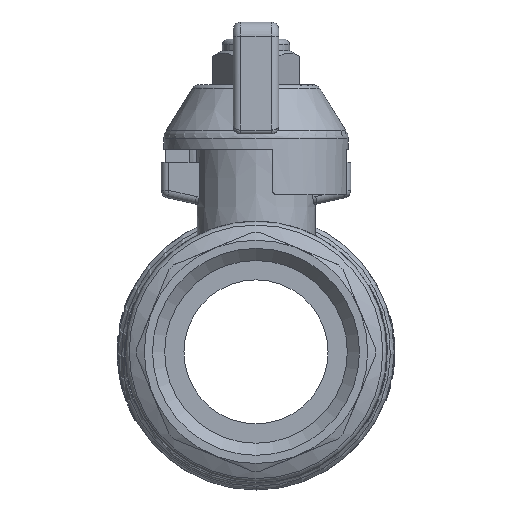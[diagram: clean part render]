
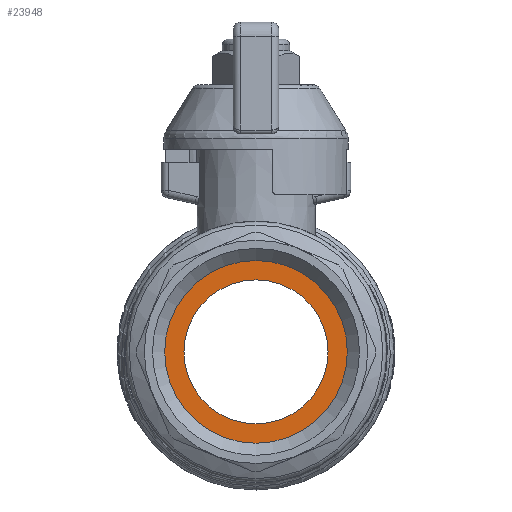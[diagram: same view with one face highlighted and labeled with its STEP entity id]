
A CAD part, left-side view. The second image highlights one B-rep face of the part: STEP entity #23948.
In plain terms, the highlighted planar face has unit normal (-1, 0, 0).
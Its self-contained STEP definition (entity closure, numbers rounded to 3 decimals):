
#23892=CARTESIAN_POINT('',(-0.,0.,-12.05));
#23893=VERTEX_POINT('',#23892);
#23902=CARTESIAN_POINT('',(-0.,0.,-0.));
#23903=DIRECTION('',(1.,0.,-0.));
#23904=DIRECTION('',(-0.,0.,-1.));
#23905=AXIS2_PLACEMENT_3D('',#23902,#23903,#23904);
#23906=CIRCLE('',#23905,12.05);
#23907=EDGE_CURVE('',#23893,#23893,#23906,.T.);
#23929=CARTESIAN_POINT('',(-0.,0.,-0.));
#23930=DIRECTION('',(1.,0.,-0.));
#23931=DIRECTION('',(-0.,0.,-1.));
#23932=AXIS2_PLACEMENT_3D('',#23929,#23930,#23931);
#23933=PLANE('',#23932);
#23934=CARTESIAN_POINT('',(-0.,0.,-9.5));
#23935=VERTEX_POINT('',#23934);
#23936=CARTESIAN_POINT('',(-0.,0.,0.));
#23937=DIRECTION('',(1.,0.,-0.));
#23938=DIRECTION('',(-0.,0.,-1.));
#23939=AXIS2_PLACEMENT_3D('',#23936,#23937,#23938);
#23940=CIRCLE('',#23939,9.5);
#23941=EDGE_CURVE('',#23935,#23935,#23940,.T.);
#23942=ORIENTED_EDGE('',*,*,#23941,.T.);
#23943=EDGE_LOOP('',(#23942));
#23944=FACE_BOUND('',#23943,.T.);
#23945=ORIENTED_EDGE('',*,*,#23907,.F.);
#23946=EDGE_LOOP('',(#23945));
#23947=FACE_BOUND('',#23946,.T.);
#23948=ADVANCED_FACE('',(#23944,#23947),#23933,.F.);
